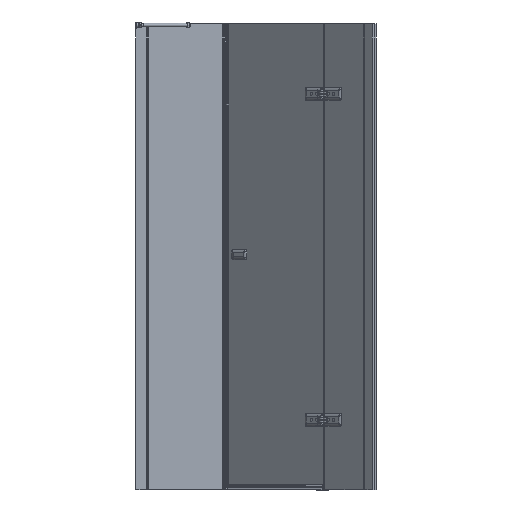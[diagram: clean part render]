
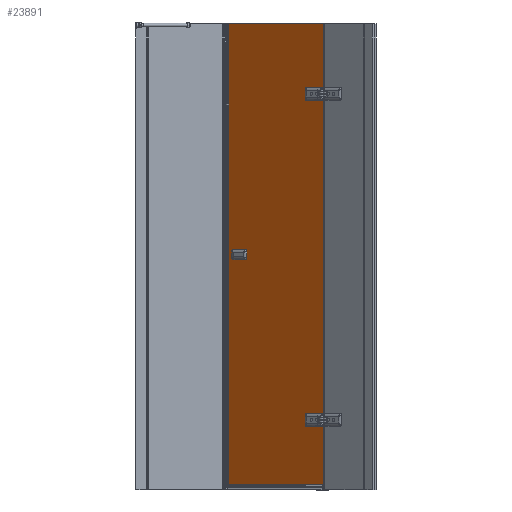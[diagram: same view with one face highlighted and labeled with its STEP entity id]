
A CAD part, left-side view. The second image highlights one B-rep face of the part: STEP entity #23891.
In plain terms, the highlighted planar face has unit normal (-0.707, 0.707, 0).
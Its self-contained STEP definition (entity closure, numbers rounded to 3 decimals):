
#222=FACE_BOUND($,#4014,.T.);
#223=FACE_BOUND($,#4015,.T.);
#224=FACE_BOUND($,#4016,.T.);
#1467=PLANE($,#25884);
#4014=EDGE_LOOP($,(#20672));
#4015=EDGE_LOOP($,(#20673));
#4016=EDGE_LOOP($,(#20674,#20675,#20676,#20677,#20678,#20679,#20680,#20681,
#20682,#20683,#20684,#20685,#20686,#20687,#20688,#20689));
#4431=CIRCLE($,#24550,6.5);
#4526=CIRCLE($,#24776,6.5);
#4880=CIRCLE($,#25885,10.);
#4881=CIRCLE($,#25886,10.);
#4882=CIRCLE($,#25887,10.);
#4883=CIRCLE($,#25888,10.);
#5526=LINE($,#49659,#7622);
#5529=LINE($,#49671,#7625);
#5761=LINE($,#50936,#7857);
#6343=LINE($,#53370,#8439);
#6353=LINE($,#53405,#8449);
#6447=LINE($,#53718,#8543);
#6939=LINE($,#54870,#9035);
#6940=LINE($,#54871,#9036);
#6941=LINE($,#54873,#9037);
#6942=LINE($,#54877,#9038);
#6943=LINE($,#54880,#9039);
#6944=LINE($,#54884,#9040);
#7622=VECTOR($,#28093,1362.);
#7625=VECTOR($,#28104,281.);
#7857=VECTOR($,#28794,261.);
#8439=VECTOR($,#30358,30.249);
#8449=VECTOR($,#30412,30.249);
#8543=VECTOR($,#30708,578.722);
#9035=VECTOR($,#31786,578.722);
#9036=VECTOR($,#31787,1980.);
#9037=VECTOR($,#31788,30.249);
#9038=VECTOR($,#31791,18.);
#9039=VECTOR($,#31794,30.249);
#9040=VECTOR($,#31797,18.);
#9747=VERTEX_POINT($,#48734);
#9921=VERTEX_POINT($,#49657);
#9922=VERTEX_POINT($,#49658);
#9926=VERTEX_POINT($,#49668);
#9927=VERTEX_POINT($,#49670);
#9975=VERTEX_POINT($,#49798);
#10149=VERTEX_POINT($,#50735);
#10180=VERTEX_POINT($,#50934);
#10733=VERTEX_POINT($,#53369);
#10736=VERTEX_POINT($,#53404);
#10793=VERTEX_POINT($,#53658);
#11121=VERTEX_POINT($,#54869);
#11122=VERTEX_POINT($,#54872);
#11123=VERTEX_POINT($,#54874);
#11124=VERTEX_POINT($,#54876);
#11125=VERTEX_POINT($,#54879);
#11126=VERTEX_POINT($,#54881);
#11127=VERTEX_POINT($,#54883);
#12119=EDGE_CURVE($,#9747,#9747,#4431,.T.);
#12403=EDGE_CURVE($,#9921,#9922,#5526,.T.);
#12409=EDGE_CURVE($,#9927,#9926,#5529,.T.);
#12478=EDGE_CURVE($,#9975,#9975,#4526,.T.);
#12792=EDGE_CURVE($,#10149,#10180,#5761,.T.);
#13642=EDGE_CURVE($,#10733,#9927,#6343,.T.);
#13658=EDGE_CURVE($,#10736,#9921,#6353,.T.);
#13794=EDGE_CURVE($,#10793,#10149,#6447,.T.);
#14346=EDGE_CURVE($,#11121,#9926,#6939,.T.);
#14347=EDGE_CURVE($,#10793,#11121,#6940,.T.);
#14348=EDGE_CURVE($,#10180,#11122,#6941,.T.);
#14349=EDGE_CURVE($,#11123,#11122,#4880,.T.);
#14350=EDGE_CURVE($,#11123,#11124,#6942,.T.);
#14351=EDGE_CURVE($,#10736,#11124,#4881,.T.);
#14352=EDGE_CURVE($,#9922,#11125,#6943,.T.);
#14353=EDGE_CURVE($,#11126,#11125,#4882,.T.);
#14354=EDGE_CURVE($,#11126,#11127,#6944,.T.);
#14355=EDGE_CURVE($,#10733,#11127,#4883,.T.);
#20672=ORIENTED_EDGE($,*,*,#12119,.T.);
#20673=ORIENTED_EDGE($,*,*,#12478,.T.);
#20674=ORIENTED_EDGE($,*,*,#12409,.T.);
#20675=ORIENTED_EDGE($,*,*,#14346,.F.);
#20676=ORIENTED_EDGE($,*,*,#14347,.F.);
#20677=ORIENTED_EDGE($,*,*,#13794,.T.);
#20678=ORIENTED_EDGE($,*,*,#12792,.T.);
#20679=ORIENTED_EDGE($,*,*,#14348,.T.);
#20680=ORIENTED_EDGE($,*,*,#14349,.F.);
#20681=ORIENTED_EDGE($,*,*,#14350,.T.);
#20682=ORIENTED_EDGE($,*,*,#14351,.F.);
#20683=ORIENTED_EDGE($,*,*,#13658,.T.);
#20684=ORIENTED_EDGE($,*,*,#12403,.T.);
#20685=ORIENTED_EDGE($,*,*,#14352,.T.);
#20686=ORIENTED_EDGE($,*,*,#14353,.F.);
#20687=ORIENTED_EDGE($,*,*,#14354,.T.);
#20688=ORIENTED_EDGE($,*,*,#14355,.F.);
#20689=ORIENTED_EDGE($,*,*,#13642,.T.);
#23891=ADVANCED_FACE($,(#222,#223,#224),#1467,.T.);
#24550=AXIS2_PLACEMENT_3D($,#48735,#27529,#27530);
#24776=AXIS2_PLACEMENT_3D($,#49799,#28211,#28212);
#25884=AXIS2_PLACEMENT_3D($,#54868,#31784,#31785);
#25885=AXIS2_PLACEMENT_3D($,#54875,#31789,#31790);
#25886=AXIS2_PLACEMENT_3D($,#54878,#31792,#31793);
#25887=AXIS2_PLACEMENT_3D($,#54882,#31795,#31796);
#25888=AXIS2_PLACEMENT_3D($,#54885,#31798,#31799);
#27529=DIRECTION('center_axis',(0.707,-0.707,0.));
#27530=DIRECTION('ref_axis',(-0.707,-0.707,0.));
#28093=DIRECTION($,(0.,0.,1.));
#28104=DIRECTION($,(0.,0.,1.));
#28211=DIRECTION('center_axis',(0.707,-0.707,0.));
#28212=DIRECTION('ref_axis',(-0.707,-0.707,0.));
#28794=DIRECTION($,(0.,0.,1.));
#30358=DIRECTION($,(-0.707,-0.707,0.));
#30412=DIRECTION($,(-0.707,-0.707,0.));
#30708=DIRECTION($,(-0.707,-0.707,0.));
#31784=DIRECTION('center_axis',(-0.707,0.707,0.));
#31785=DIRECTION('ref_axis',(-0.707,-0.707,0.));
#31786=DIRECTION($,(-0.707,-0.707,0.));
#31787=DIRECTION($,(0.,0.,1.));
#31788=DIRECTION($,(0.707,0.707,0.));
#31789=DIRECTION('center_axis',(-0.707,0.707,0.));
#31790=DIRECTION('ref_axis',(0.5,0.5,-0.707));
#31791=DIRECTION($,(0.,0.,1.));
#31792=DIRECTION('center_axis',(-0.707,0.707,0.));
#31793=DIRECTION('ref_axis',(0.5,0.5,0.707));
#31794=DIRECTION($,(0.707,0.707,0.));
#31795=DIRECTION('center_axis',(-0.707,0.707,0.));
#31796=DIRECTION('ref_axis',(0.5,0.5,-0.707));
#31797=DIRECTION($,(0.,0.,1.));
#31798=DIRECTION('center_axis',(-0.707,0.707,0.));
#31799=DIRECTION('ref_axis',(0.5,0.5,0.707));
#48734=CARTESIAN_POINT('',(974.61,190.635,1285.944));
#48735=CARTESIAN_POINT('Origin',(970.014,186.039,1285.944));
#49657=CARTESIAN_POINT('',(925.29,141.315,-95.056));
#49658=CARTESIAN_POINT('',(925.29,141.315,1266.944));
#49659=CARTESIAN_POINT($,(925.29,141.315,-104.056));
#49668=CARTESIAN_POINT('',(925.29,141.315,1585.944));
#49670=CARTESIAN_POINT('',(925.29,141.315,1304.944));
#49671=CARTESIAN_POINT($,(925.29,141.315,1585.944));
#49798=CARTESIAN_POINT('',(974.61,190.635,-114.056));
#49799=CARTESIAN_POINT('Origin',(970.014,186.039,-114.056));
#50735=CARTESIAN_POINT('',(925.29,141.315,-394.056));
#50934=CARTESIAN_POINT('',(925.29,141.315,-133.056));
#50936=CARTESIAN_POINT($,(925.29,141.315,-414.056));
#53369=CARTESIAN_POINT('',(946.679,162.704,1304.944));
#53370=CARTESIAN_POINT($,(1129.28,345.305,1304.944));
#53404=CARTESIAN_POINT('',(946.679,162.704,-95.056));
#53405=CARTESIAN_POINT($,(1129.28,345.305,-95.056));
#53658=CARTESIAN_POINT('',(1334.508,550.533,-394.056));
#53718=CARTESIAN_POINT($,(1334.508,550.533,-394.056));
#54868=CARTESIAN_POINT('Origin',(1334.508,550.533,-394.056));
#54869=CARTESIAN_POINT('',(1334.508,550.533,1585.944));
#54870=CARTESIAN_POINT($,(1334.508,550.533,1585.944));
#54871=CARTESIAN_POINT($,(1334.508,550.533,-394.056));
#54872=CARTESIAN_POINT('',(946.679,162.704,-133.056));
#54873=CARTESIAN_POINT($,(1144.129,360.154,-133.056));
#54874=CARTESIAN_POINT('',(953.75,169.775,-123.056));
#54875=CARTESIAN_POINT('Origin',(946.679,162.704,-123.056));
#54876=CARTESIAN_POINT('',(953.75,169.775,-105.056));
#54877=CARTESIAN_POINT($,(953.75,169.775,-244.556));
#54878=CARTESIAN_POINT('Origin',(946.679,162.704,-105.056));
#54879=CARTESIAN_POINT('',(946.679,162.704,1266.944));
#54880=CARTESIAN_POINT($,(1144.129,360.154,1266.944));
#54881=CARTESIAN_POINT('',(953.75,169.775,1276.944));
#54882=CARTESIAN_POINT('Origin',(946.679,162.704,1276.944));
#54883=CARTESIAN_POINT('',(953.75,169.775,1294.944));
#54884=CARTESIAN_POINT($,(953.75,169.775,455.444));
#54885=CARTESIAN_POINT('Origin',(946.679,162.704,1294.944));
